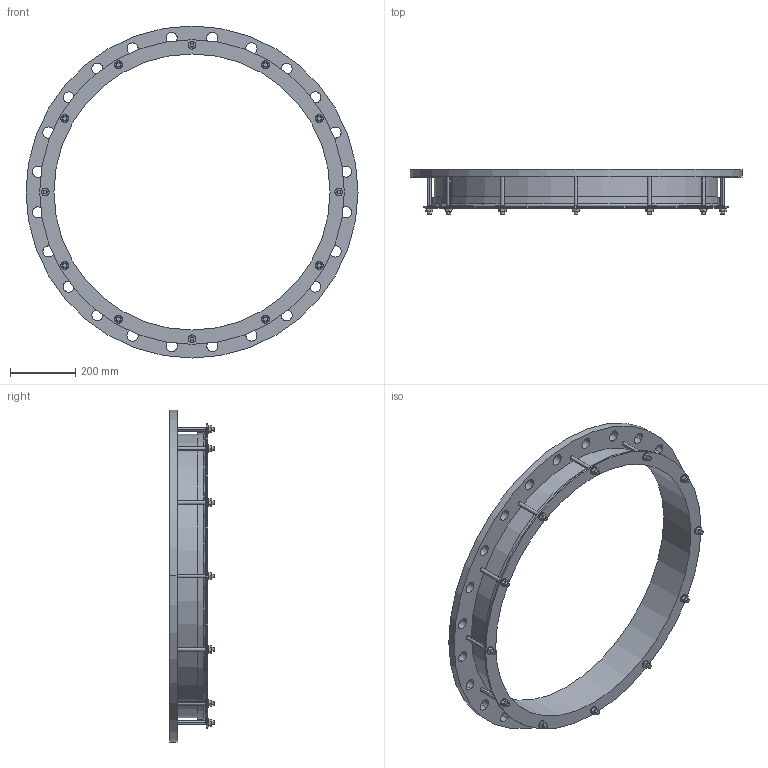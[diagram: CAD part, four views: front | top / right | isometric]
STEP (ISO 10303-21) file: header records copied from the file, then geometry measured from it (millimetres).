
FILE_DESCRIPTION((''),'2;1');
FILE_NAME('842X800PN10','2019-01-16T',('mfairey'),('Glynwed Pipe Systems'),'CREO PARAMETRIC BY PTC INC, 2016130','CREO PARAMETRIC BY PTC INC, 2016130','');
FILE_SCHEMA(('CONFIG_CONTROL_DESIGN'));
Length unit declared in the file: millimetre
Products named in the file (1): 842X800PN10
Bounding box: 1015 x 137.45 x 1015 mm (x, y, z)
Volume: 9247348.2 mm3; surface area: 1374762.3 mm2
Topology: 1 solids, 1 shells, 246 faces, 650 edges, 432 vertices
Faces by surface type: cylinder 128, plane 112, cone 4, torus 2
Entity records: 8584 total; most frequent: CARTESIAN_POINT 2138, DIRECTION 1340, ORIENTED_EDGE 1300, EDGE_CURVE 650, AXIS2_PLACEMENT_3D 496, VERTEX_POINT 432, VECTOR 348, LINE 348
